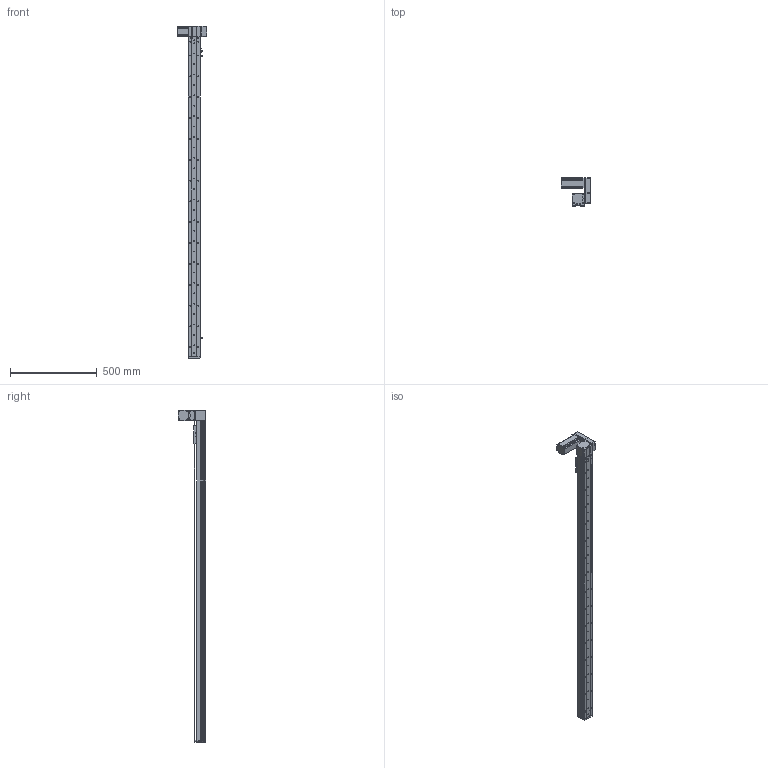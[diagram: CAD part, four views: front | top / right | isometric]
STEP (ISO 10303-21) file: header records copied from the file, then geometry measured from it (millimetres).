
FILE_DESCRIPTION (( 'STEP AP214' ), '1' );
FILE_NAME ('KSD68BS-S1650-MLU-CM.STEP', '2019-11-06T07:07:32', ( '微软用户' ), ( '微软中国' ), 'SwSTEP 2.0', 'SolidWorks 2014', '' );
FILE_SCHEMA (( 'AUTOMOTIVE_DESIGN' ));
Length unit declared in the file: millimetre
Products named in the file (11): 68单导轨同步带半封闭端板; KSD68BS 1650俴最裔啣圉猾敕; 覜茼え68遵圉猾敕; KSD68BS半封闭同步带传动导轨座; U倰嫖萇EEㄜSX672; 台达ECMA－C20604AS伺服电机（400W); KSD68BS 1650俴最菁啣圉猾敕; KSD68BS-S1650-MLU-CM; 悵誘欶奻狟殏; 68宽马达安装板连板上折同步带; 68宽单导轨半封闭同步带主动轮座左
Assembly tree (12 placements, depth 2):
  KSD68BS-S1650-MLU-CM
    KSD68BS 1650俴最菁啣圉猾敕
    台达ECMA－C20604AS伺服电机（400W)
    U倰嫖萇EEㄜSX672  x3
    KSD68BS半封闭同步带传动导轨座
    覜茼え68遵圉猾敕
    KSD68BS 1650俴最裔啣圉猾敕
    68单导轨同步带半封闭端板
    68宽单导轨半封闭同步带主动轮座左
    68宽马达安装板连板上折同步带
    悵誘欶奻狟殏
Bounding box: 167.2 x 159.5 x 1912 mm (x, y, z)
Volume: 3190384.4 mm3; surface area: 1187374.8 mm2
Topology: 13 solids, 13 shells, 1608 faces, 4716 edges, 3074 vertices
Faces by surface type: cylinder 850, plane 675, cone 83
Entity records: 62966 total; most frequent: CARTESIAN_POINT 12726, ORIENTED_EDGE 8184, DIRECTION 7902, EDGE_CURVE 4092, AXIS2_PLACEMENT_3D 2850, VERTEX_POINT 2698, VECTOR 2202, LINE 2202
